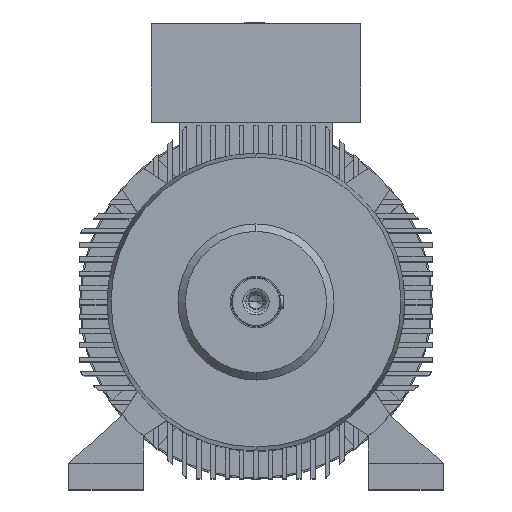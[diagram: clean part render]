
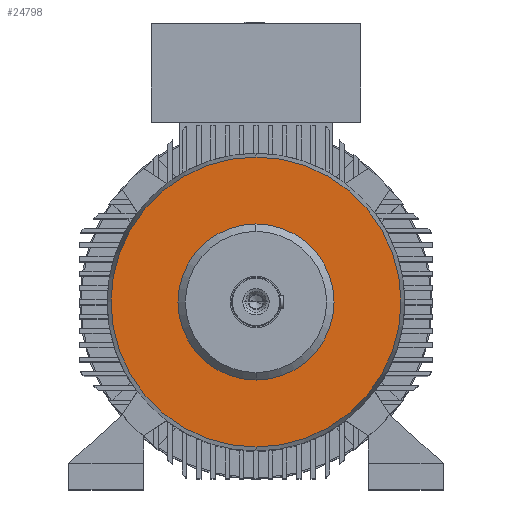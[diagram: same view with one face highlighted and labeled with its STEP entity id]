
A CAD part, top view. The second image highlights one B-rep face of the part: STEP entity #24798.
In plain terms, the highlighted planar face has unit normal (0, 0, 1).
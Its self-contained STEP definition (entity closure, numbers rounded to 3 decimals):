
#1074 = EDGE_LOOP ( 'NONE', ( #4575, #11124 ) ) ;
#1123 = DIRECTION ( 'NONE',  ( 0., 0., -1. ) ) ;
#1329 = FACE_OUTER_BOUND ( 'NONE', #1074, .T. ) ;
#2671 = DIRECTION ( 'NONE',  ( 0., 0., 1. ) ) ;
#2928 = CARTESIAN_POINT ( 'NONE',  ( 0., 0., 330.5 ) ) ;
#3306 = CARTESIAN_POINT ( 'NONE',  ( 0., 104.2, 330.5 ) ) ;
#4551 = VERTEX_POINT ( 'NONE', #3306 ) ;
#4575 = ORIENTED_EDGE ( 'NONE', *, *, #16652, .F. ) ;
#4786 = CARTESIAN_POINT ( 'NONE',  ( 0., 193.542, 330.5 ) ) ;
#4827 = VERTEX_POINT ( 'NONE', #7149 ) ;
#6677 = CARTESIAN_POINT ( 'NONE',  ( 0., -104.2, 330.5 ) ) ;
#7149 = CARTESIAN_POINT ( 'NONE',  ( 0., 193.542, 330.5 ) ) ;
#7354 = DIRECTION ( 'NONE',  ( 0., 1., 0. ) ) ;
#7409 = AXIS2_PLACEMENT_3D ( 'NONE', #2928, #1123, #13170 ) ;
#9198 = VERTEX_POINT ( 'NONE', #6677 ) ;
#9675 = DIRECTION ( 'NONE',  ( 0., 1., 0. ) ) ;
#9876 = AXIS2_PLACEMENT_3D ( 'NONE', #14811, #2671, #12923 ) ;
#10878 = AXIS2_PLACEMENT_3D ( 'NONE', #13526, #19585, #9675 ) ;
#11124 = ORIENTED_EDGE ( 'NONE', *, *, #21530, .F. ) ;
#12067 = EDGE_CURVE ( 'NONE', #9198, #4551, #15017, .T. ) ;
#12817 = ORIENTED_EDGE ( 'NONE', *, *, #24731, .F. ) ;
#12923 = DIRECTION ( 'NONE',  ( 0., 1., 0. ) ) ;
#13141 = CARTESIAN_POINT ( 'NONE',  ( 0., -193.542, 330.5 ) ) ;
#13170 = DIRECTION ( 'NONE',  ( 0., 1., 0. ) ) ;
#13526 = CARTESIAN_POINT ( 'NONE',  ( 0., 0., 330.5 ) ) ;
#13674 = CIRCLE ( 'NONE', #7409, 193.542 ) ;
#13775 = CIRCLE ( 'NONE', #10878, 193.542 ) ;
#14438 = DIRECTION ( 'NONE',  ( 0., 0., 1. ) ) ;
#14811 = CARTESIAN_POINT ( 'NONE',  ( 0., 0., 330.5 ) ) ;
#15017 = CIRCLE ( 'NONE', #9876, 104.2 ) ;
#15446 = CIRCLE ( 'NONE', #22074, 104.2 ) ;
#16221 = DIRECTION ( 'NONE',  ( 0., 1., 0. ) ) ;
#16652 = EDGE_CURVE ( 'NONE', #4827, #22722, #13674, .T. ) ;
#19476 = AXIS2_PLACEMENT_3D ( 'NONE', #4786, #20152, #7354 ) ;
#19585 = DIRECTION ( 'NONE',  ( 0., 0., -1. ) ) ;
#20152 = DIRECTION ( 'NONE',  ( 0., 0., -1. ) ) ;
#21530 = EDGE_CURVE ( 'NONE', #22722, #4827, #13775, .T. ) ;
#22074 = AXIS2_PLACEMENT_3D ( 'NONE', #26654, #14438, #16221 ) ;
#22534 = FACE_BOUND ( 'NONE', #23077, .T. ) ;
#22722 = VERTEX_POINT ( 'NONE', #13141 ) ;
#23077 = EDGE_LOOP ( 'NONE', ( #12817, #23534 ) ) ;
#23534 = ORIENTED_EDGE ( 'NONE', *, *, #12067, .F. ) ;
#24459 = PLANE ( 'NONE',  #19476 ) ;
#24731 = EDGE_CURVE ( 'NONE', #4551, #9198, #15446, .T. ) ;
#24798 = ADVANCED_FACE ( 'NONE', ( #1329, #22534 ), #24459, .F. ) ;
#26654 = CARTESIAN_POINT ( 'NONE',  ( 0., 0., 330.5 ) ) ;
